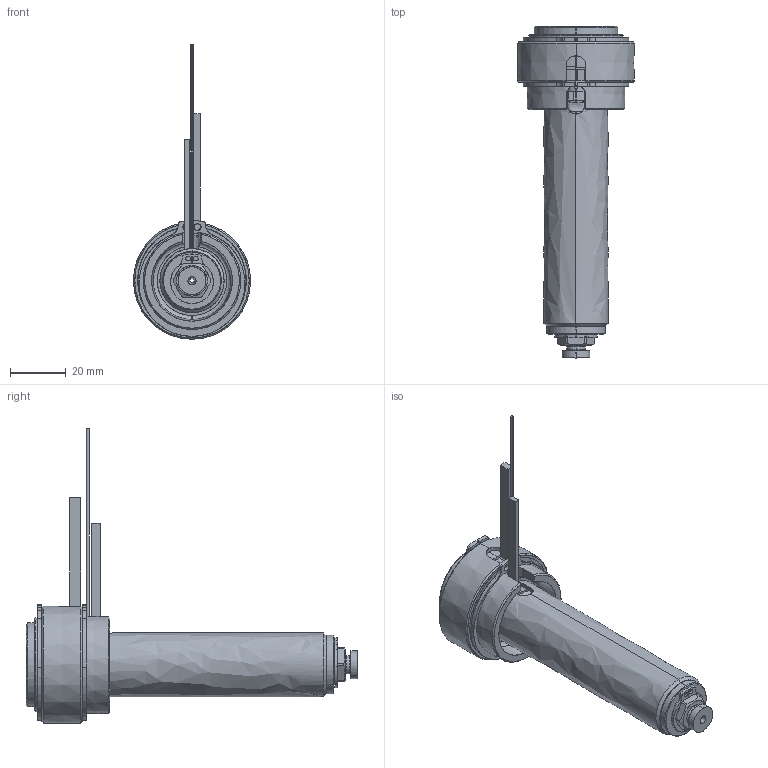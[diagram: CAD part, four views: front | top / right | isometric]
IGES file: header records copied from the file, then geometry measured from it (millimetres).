
Start section: SolidWorks IGES file using analytic representation for surfaces
Global section: file name: C:\Users\luca.EMPAD\Desktop\TEM\UGBE3502-M-A-5 [Ød-1.5 P-0 ØC-7.0].IGS; native system: SolidWorks 2012; preprocessor: SolidWorks 2012; author: luca; date: 120330.140405; units: millimetre
Bounding box: 42 x 119 x 105.6 mm (x, y, z)
Surface area: 27896.6 mm2 (no closed solid volume)
Topology: 0 solids, 0 shells, 179 faces, 3162 edges, 3162 vertices
Faces by surface type: revolution 114, bspline 65
